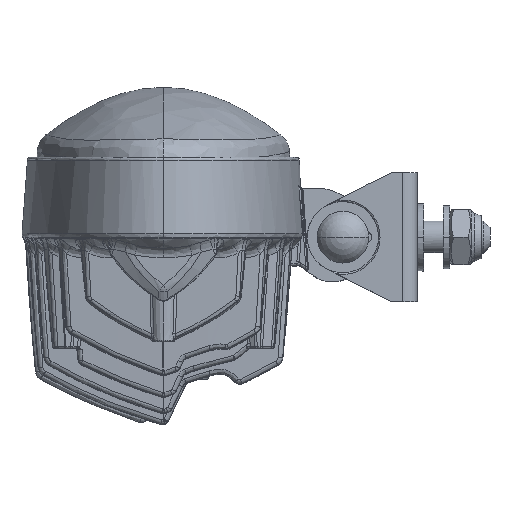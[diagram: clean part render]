
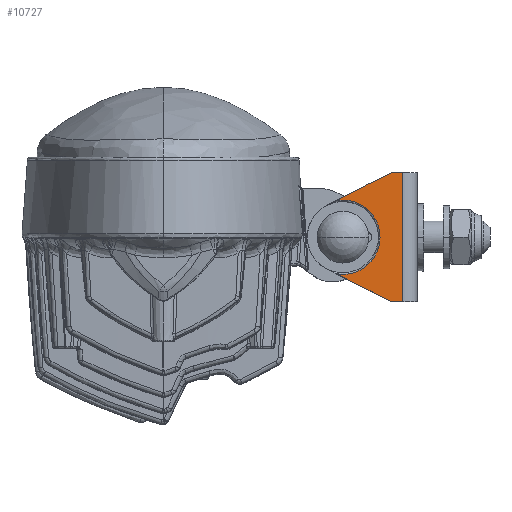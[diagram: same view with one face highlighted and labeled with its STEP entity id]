
A CAD part, left-side view. The second image highlights one B-rep face of the part: STEP entity #10727.
In plain terms, the highlighted planar face has unit normal (-1, 0, 0).
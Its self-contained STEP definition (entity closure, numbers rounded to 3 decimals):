
#9529=AXIS2_PLACEMENT_3D('Circle Axis2P3D',#9527,#9528,$) ;
#9603=AXIS2_PLACEMENT_3D('Circle Axis2P3D',#9601,#9602,$) ;
#10683=AXIS2_PLACEMENT_3D('Plane Axis2P3D',#10680,#10681,#10682) ;
#9527=CARTESIAN_POINT('Axis2P3D Location',(-21.25,-55.528,42.623)) ;
#9531=CARTESIAN_POINT('Vertex',(-21.25,-53.517,31.3)) ;
#9533=CARTESIAN_POINT('Vertex',(-21.25,-65.62,48.136)) ;
#9601=CARTESIAN_POINT('Axis2P3D Location',(-21.25,-55.528,42.623)) ;
#9605=CARTESIAN_POINT('Vertex',(-21.25,-53.517,53.946)) ;
#10680=CARTESIAN_POINT('Axis2P3D Location',(-21.25,-74.028,42.623)) ;
#10685=CARTESIAN_POINT('Line Origine',(-21.25,-62.023,26.962)) ;
#10689=CARTESIAN_POINT('Vertex',(-21.25,-70.528,22.623)) ;
#10692=CARTESIAN_POINT('Line Origine',(-21.25,-72.278,22.623)) ;
#10696=CARTESIAN_POINT('Vertex',(-21.25,-74.028,22.623)) ;
#10699=CARTESIAN_POINT('Line Origine',(-21.25,-74.028,42.623)) ;
#10703=CARTESIAN_POINT('Vertex',(-21.25,-74.028,62.623)) ;
#10706=CARTESIAN_POINT('Line Origine',(-21.25,-72.278,62.623)) ;
#10710=CARTESIAN_POINT('Vertex',(-21.25,-70.528,62.623)) ;
#10713=CARTESIAN_POINT('Line Origine',(-21.25,-62.023,58.284)) ;
#9528=DIRECTION('Axis2P3D Direction',(-1.,0.,0.)) ;
#9602=DIRECTION('Axis2P3D Direction',(-1.,0.,0.)) ;
#10681=DIRECTION('Axis2P3D Direction',(-1.,0.,0.)) ;
#10682=DIRECTION('Axis2P3D XDirection',(0.,1.,0.)) ;
#10686=DIRECTION('Vector Direction',(0.,0.891,0.454)) ;
#10693=DIRECTION('Vector Direction',(0.,1.,0.)) ;
#10700=DIRECTION('Vector Direction',(0.,0.,-1.)) ;
#10707=DIRECTION('Vector Direction',(0.,1.,0.)) ;
#10714=DIRECTION('Vector Direction',(0.,0.891,-0.454)) ;
#10687=VECTOR('Line Direction',#10686,1.) ;
#10694=VECTOR('Line Direction',#10693,1.) ;
#10701=VECTOR('Line Direction',#10700,1.) ;
#10708=VECTOR('Line Direction',#10707,1.) ;
#10715=VECTOR('Line Direction',#10714,1.) ;
#10719=ORIENTED_EDGE('',*,*,#10691,.F.) ;
#10720=ORIENTED_EDGE('',*,*,#10698,.F.) ;
#10721=ORIENTED_EDGE('',*,*,#10705,.F.) ;
#10722=ORIENTED_EDGE('',*,*,#10712,.T.) ;
#10723=ORIENTED_EDGE('',*,*,#10717,.T.) ;
#10724=ORIENTED_EDGE('',*,*,#9607,.F.) ;
#10725=ORIENTED_EDGE('',*,*,#9535,.F.) ;
#10727=ADVANCED_FACE('Bracket_gr',(#10726),#10684,.T.) ;
#9530=CIRCLE('generated circle',#9529,11.5) ;
#9604=CIRCLE('generated circle',#9603,11.5) ;
#9535=EDGE_CURVE('',#9532,#9534,#9530,.T.) ;
#9607=EDGE_CURVE('',#9534,#9606,#9604,.T.) ;
#10691=EDGE_CURVE('',#10690,#9532,#10688,.T.) ;
#10698=EDGE_CURVE('',#10697,#10690,#10695,.T.) ;
#10705=EDGE_CURVE('',#10704,#10697,#10702,.T.) ;
#10712=EDGE_CURVE('',#10704,#10711,#10709,.T.) ;
#10717=EDGE_CURVE('',#10711,#9606,#10716,.T.) ;
#10718=EDGE_LOOP('',(#10719,#10720,#10721,#10722,#10723,#10724,#10725)) ;
#10726=FACE_OUTER_BOUND('',#10718,.T.) ;
#10688=LINE('Line',#10685,#10687) ;
#10695=LINE('Line',#10692,#10694) ;
#10702=LINE('Line',#10699,#10701) ;
#10709=LINE('Line',#10706,#10708) ;
#10716=LINE('Line',#10713,#10715) ;
#10684=PLANE('',#10683) ;
#9532=VERTEX_POINT('',#9531) ;
#9534=VERTEX_POINT('',#9533) ;
#9606=VERTEX_POINT('',#9605) ;
#10690=VERTEX_POINT('',#10689) ;
#10697=VERTEX_POINT('',#10696) ;
#10704=VERTEX_POINT('',#10703) ;
#10711=VERTEX_POINT('',#10710) ;
